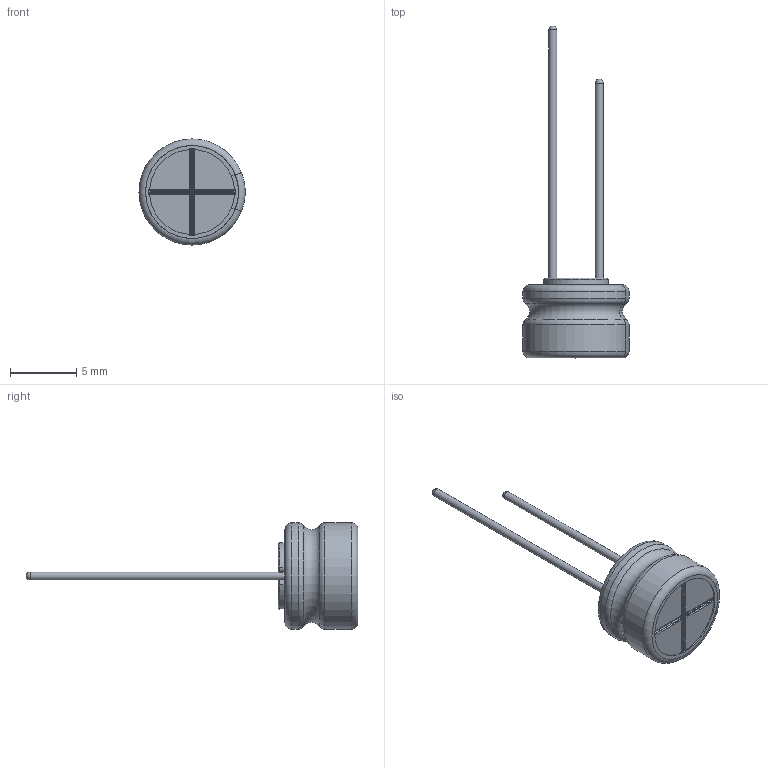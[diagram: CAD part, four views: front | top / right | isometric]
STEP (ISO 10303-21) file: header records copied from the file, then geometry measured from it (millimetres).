
FILE_DESCRIPTION(/* description */ (''),/* implementation_level */ '2;1');
FILE_NAME(/* name */ '8x6_Lead.stp',/* time_stamp */ '2017-09-05T13:50:42+09:00',/* author */ (''),/* organization */ (''),/* preprocessor_version */ 'ST-DEVELOPER v16',/* originating_system */ 'SIEMENS PLM Software NX 11.0',/* authorisation */ '');
FILE_SCHEMA (('AUTOMOTIVE_DESIGN { 1 0 10303 214 3 1 1 1 }'));
Length unit declared in the file: millimetre
Products named in the file (1): 8x6_Lead_0
Bounding box: 7.99 x 25 x 8 mm (x, y, z)
Volume: 274.8 mm3; surface area: 629.5 mm2
Topology: 3 solids, 3 shells, 115 faces, 288 edges, 181 vertices
Faces by surface type: cylinder 44, torus 33, plane 28, sphere 6, bspline 4
Full cylindrical faces by diameter (mm): 0.6 x2, 7.8 x2
Entity records: 4020 total; most frequent: CARTESIAN_POINT 680, DIRECTION 664, ORIENTED_EDGE 544, AXIS2_PLACEMENT_3D 280, EDGE_CURVE 272, VERTEX_POINT 176, CIRCLE 160, EDGE_LOOP 128
